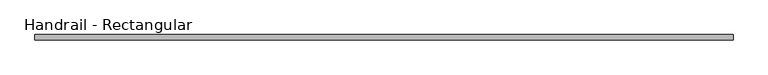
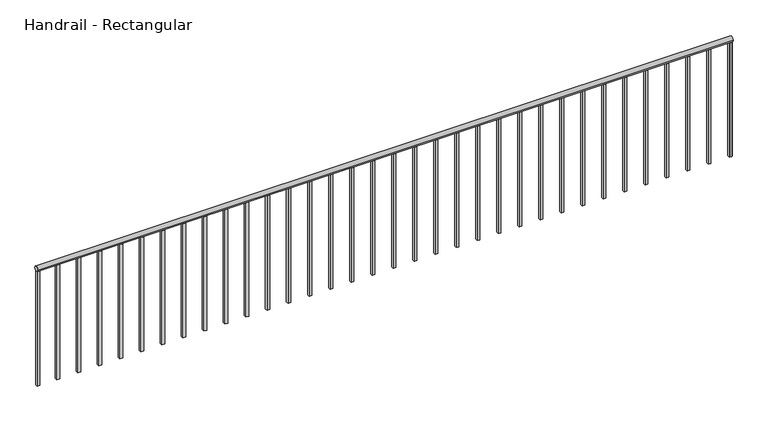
"""IFC4 building model written with IfcOpenShell, lengths in millimetres: railing geometry, Handrail - Rectangular."""

from ifc_helpers import new_model, si_unit, point, frame, frame_2d, origin, place, context, project, spatial, polyline, circle_curve, trimmed, segment, composite_curve, outline, extrude, source, transform, mapped, element, save


def handrail_rectangular_c69f9d7d(model_context):
    return source(origin(), model_context, "Body", "SweptSolid", [
        extrude(outline(composite_curve([segment(trimmed(circle_curve(frame_2d((11944.8316867, 10039.35)), 19.05), [point((11963.8816867, 10039.35))], [point((11925.7816867, 10039.35))], False, "CARTESIAN"), True, "CONTINUOUS"), segment(trimmed(circle_curve(frame_2d((11944.8316867, 10039.35)), 19.05), [point((11925.7816867, 10039.35))], [point((11963.8816867, 10039.35))], False, "CARTESIAN"), True, "CONTINUOUS")], self_intersect=False)), frame((-11164.8589563, 0.0, 0.0), z_axis=(1.0, 0.0, 0.0), x_axis=(0.0, 1.0, 0.0)), (0.0, 0.0, 1.0), 5041.9),
        extrude(outline(polyline([(-6145.1839563, 11935.3066867), (-6145.1839563, 11954.3566867), (-6126.1339563, 11954.3566867), (-6126.1339563, 11935.3066867), (-6145.1839563, 11935.3066867)])), frame((0.0, 0.0, 9144.0), z_axis=(0.0, 0.0, 1.0), x_axis=(1.0, 0.0, 0.0)), (0.0, 0.0, 1.0), 876.3),
        extrude(outline(polyline([(-6297.5839563, 11935.3066867), (-6297.5839563, 11954.3566867), (-6278.5339563, 11954.3566867), (-6278.5339563, 11935.3066867), (-6297.5839563, 11935.3066867)])), frame((0.0, 0.0, 9144.0), z_axis=(0.0, 0.0, 1.0), x_axis=(1.0, 0.0, 0.0)), (0.0, 0.0, 1.0), 876.3),
        extrude(outline(polyline([(-6449.9839563, 11935.3066867), (-6449.9839563, 11954.3566867), (-6430.9339563, 11954.3566867), (-6430.9339563, 11935.3066867), (-6449.9839563, 11935.3066867)])), frame((0.0, 0.0, 9144.0), z_axis=(0.0, 0.0, 1.0), x_axis=(1.0, 0.0, 0.0)), (0.0, 0.0, 1.0), 876.3),
        extrude(outline(polyline([(-6602.3839563, 11935.3066867), (-6602.3839563, 11954.3566867), (-6583.3339563, 11954.3566867), (-6583.3339563, 11935.3066867), (-6602.3839563, 11935.3066867)])), frame((0.0, 0.0, 9144.0), z_axis=(0.0, 0.0, 1.0), x_axis=(1.0, 0.0, 0.0)), (0.0, 0.0, 1.0), 876.3),
        extrude(outline(polyline([(-6754.7839563, 11935.3066867), (-6754.7839563, 11954.3566867), (-6735.7339563, 11954.3566867), (-6735.7339563, 11935.3066867), (-6754.7839563, 11935.3066867)])), frame((0.0, 0.0, 9144.0), z_axis=(0.0, 0.0, 1.0), x_axis=(1.0, 0.0, 0.0)), (0.0, 0.0, 1.0), 876.3),
        extrude(outline(polyline([(-6907.1839563, 11935.3066867), (-6907.1839563, 11954.3566867), (-6888.1339563, 11954.3566867), (-6888.1339563, 11935.3066867), (-6907.1839563, 11935.3066867)])), frame((0.0, 0.0, 9144.0), z_axis=(0.0, 0.0, 1.0), x_axis=(1.0, 0.0, 0.0)), (0.0, 0.0, 1.0), 876.3),
        extrude(outline(polyline([(-7059.5839563, 11935.3066867), (-7059.5839563, 11954.3566867), (-7040.5339563, 11954.3566867), (-7040.5339563, 11935.3066867), (-7059.5839563, 11935.3066867)])), frame((0.0, 0.0, 9144.0), z_axis=(0.0, 0.0, 1.0), x_axis=(1.0, 0.0, 0.0)), (0.0, 0.0, 1.0), 876.3),
        extrude(outline(polyline([(-7211.9839563, 11935.3066867), (-7211.9839563, 11954.3566867), (-7192.9339563, 11954.3566867), (-7192.9339563, 11935.3066867), (-7211.9839563, 11935.3066867)])), frame((0.0, 0.0, 9144.0), z_axis=(0.0, 0.0, 1.0), x_axis=(1.0, 0.0, 0.0)), (0.0, 0.0, 1.0), 876.3),
        extrude(outline(polyline([(-7364.3839563, 11935.3066867), (-7364.3839563, 11954.3566867), (-7345.3339563, 11954.3566867), (-7345.3339563, 11935.3066867), (-7364.3839563, 11935.3066867)])), frame((0.0, 0.0, 9144.0), z_axis=(0.0, 0.0, 1.0), x_axis=(1.0, 0.0, 0.0)), (0.0, 0.0, 1.0), 876.3),
        extrude(outline(polyline([(-7516.7839563, 11935.3066867), (-7516.7839563, 11954.3566867), (-7497.7339563, 11954.3566867), (-7497.7339563, 11935.3066867), (-7516.7839563, 11935.3066867)])), frame((0.0, 0.0, 9144.0), z_axis=(0.0, 0.0, 1.0), x_axis=(1.0, 0.0, 0.0)), (0.0, 0.0, 1.0), 876.3),
        extrude(outline(polyline([(-7669.1839563, 11935.3066867), (-7669.1839563, 11954.3566867), (-7650.1339563, 11954.3566867), (-7650.1339563, 11935.3066867), (-7669.1839563, 11935.3066867)])), frame((0.0, 0.0, 9144.0), z_axis=(0.0, 0.0, 1.0), x_axis=(1.0, 0.0, 0.0)), (0.0, 0.0, 1.0), 876.3),
        extrude(outline(polyline([(-7821.5839563, 11935.3066867), (-7821.5839563, 11954.3566867), (-7802.5339563, 11954.3566867), (-7802.5339563, 11935.3066867), (-7821.5839563, 11935.3066867)])), frame((0.0, 0.0, 9144.0), z_axis=(0.0, 0.0, 1.0), x_axis=(1.0, 0.0, 0.0)), (0.0, 0.0, 1.0), 876.3),
        extrude(outline(polyline([(-7973.9839563, 11935.3066867), (-7973.9839563, 11954.3566867), (-7954.9339563, 11954.3566867), (-7954.9339563, 11935.3066867), (-7973.9839563, 11935.3066867)])), frame((0.0, 0.0, 9144.0), z_axis=(0.0, 0.0, 1.0), x_axis=(1.0, 0.0, 0.0)), (0.0, 0.0, 1.0), 876.3),
        extrude(outline(polyline([(-8126.3839563, 11935.3066867), (-8126.3839563, 11954.3566867), (-8107.3339563, 11954.3566867), (-8107.3339563, 11935.3066867), (-8126.3839563, 11935.3066867)])), frame((0.0, 0.0, 9144.0), z_axis=(0.0, 0.0, 1.0), x_axis=(1.0, 0.0, 0.0)), (0.0, 0.0, 1.0), 876.3),
        extrude(outline(polyline([(-8278.7839563, 11935.3066867), (-8278.7839563, 11954.3566867), (-8259.7339563, 11954.3566867), (-8259.7339563, 11935.3066867), (-8278.7839563, 11935.3066867)])), frame((0.0, 0.0, 9144.0), z_axis=(0.0, 0.0, 1.0), x_axis=(1.0, 0.0, 0.0)), (0.0, 0.0, 1.0), 876.3),
        extrude(outline(polyline([(-8431.1839563, 11935.3066867), (-8431.1839563, 11954.3566867), (-8412.1339563, 11954.3566867), (-8412.1339563, 11935.3066867), (-8431.1839563, 11935.3066867)])), frame((0.0, 0.0, 9144.0), z_axis=(0.0, 0.0, 1.0), x_axis=(1.0, 0.0, 0.0)), (0.0, 0.0, 1.0), 876.3),
        extrude(outline(polyline([(-8583.5839563, 11935.3066867), (-8583.5839563, 11954.3566867), (-8564.5339563, 11954.3566867), (-8564.5339563, 11935.3066867), (-8583.5839563, 11935.3066867)])), frame((0.0, 0.0, 9144.0), z_axis=(0.0, 0.0, 1.0), x_axis=(1.0, 0.0, 0.0)), (0.0, 0.0, 1.0), 876.3),
        extrude(outline(polyline([(-8735.9839563, 11935.3066867), (-8735.9839563, 11954.3566867), (-8716.9339563, 11954.3566867), (-8716.9339563, 11935.3066867), (-8735.9839563, 11935.3066867)])), frame((0.0, 0.0, 9144.0), z_axis=(0.0, 0.0, 1.0), x_axis=(1.0, 0.0, 0.0)), (0.0, 0.0, 1.0), 876.3),
        extrude(outline(polyline([(-8888.3839563, 11935.3066867), (-8888.3839563, 11954.3566867), (-8869.3339563, 11954.3566867), (-8869.3339563, 11935.3066867), (-8888.3839563, 11935.3066867)])), frame((0.0, 0.0, 9144.0), z_axis=(0.0, 0.0, 1.0), x_axis=(1.0, 0.0, 0.0)), (0.0, 0.0, 1.0), 876.3),
        extrude(outline(polyline([(-9040.7839563, 11935.3066867), (-9040.7839563, 11954.3566867), (-9021.7339563, 11954.3566867), (-9021.7339563, 11935.3066867), (-9040.7839563, 11935.3066867)])), frame((0.0, 0.0, 9144.0), z_axis=(0.0, 0.0, 1.0), x_axis=(1.0, 0.0, 0.0)), (0.0, 0.0, 1.0), 876.3),
        extrude(outline(polyline([(-9193.1839563, 11935.3066867), (-9193.1839563, 11954.3566867), (-9174.1339563, 11954.3566867), (-9174.1339563, 11935.3066867), (-9193.1839563, 11935.3066867)])), frame((0.0, 0.0, 9144.0), z_axis=(0.0, 0.0, 1.0), x_axis=(1.0, 0.0, 0.0)), (0.0, 0.0, 1.0), 876.3),
        extrude(outline(polyline([(-9345.5839563, 11935.3066867), (-9345.5839563, 11954.3566867), (-9326.5339563, 11954.3566867), (-9326.5339563, 11935.3066867), (-9345.5839563, 11935.3066867)])), frame((0.0, 0.0, 9144.0), z_axis=(0.0, 0.0, 1.0), x_axis=(1.0, 0.0, 0.0)), (0.0, 0.0, 1.0), 876.3),
        extrude(outline(polyline([(-9497.9839563, 11935.3066867), (-9497.9839563, 11954.3566867), (-9478.9339563, 11954.3566867), (-9478.9339563, 11935.3066867), (-9497.9839563, 11935.3066867)])), frame((0.0, 0.0, 9144.0), z_axis=(0.0, 0.0, 1.0), x_axis=(1.0, 0.0, 0.0)), (0.0, 0.0, 1.0), 876.3),
        extrude(outline(polyline([(-9650.3839563, 11935.3066867), (-9650.3839563, 11954.3566867), (-9631.3339563, 11954.3566867), (-9631.3339563, 11935.3066867), (-9650.3839563, 11935.3066867)])), frame((0.0, 0.0, 9144.0), z_axis=(0.0, 0.0, 1.0), x_axis=(1.0, 0.0, 0.0)), (0.0, 0.0, 1.0), 876.3),
        extrude(outline(polyline([(-9802.7839563, 11935.3066867), (-9802.7839563, 11954.3566867), (-9783.7339563, 11954.3566867), (-9783.7339563, 11935.3066867), (-9802.7839563, 11935.3066867)])), frame((0.0, 0.0, 9144.0), z_axis=(0.0, 0.0, 1.0), x_axis=(1.0, 0.0, 0.0)), (0.0, 0.0, 1.0), 876.3),
        extrude(outline(polyline([(-9955.1839563, 11935.3066867), (-9955.1839563, 11954.3566867), (-9936.1339563, 11954.3566867), (-9936.1339563, 11935.3066867), (-9955.1839563, 11935.3066867)])), frame((0.0, 0.0, 9144.0), z_axis=(0.0, 0.0, 1.0), x_axis=(1.0, 0.0, 0.0)), (0.0, 0.0, 1.0), 876.3),
        extrude(outline(polyline([(-10107.5839563, 11935.3066867), (-10107.5839563, 11954.3566867), (-10088.5339563, 11954.3566867), (-10088.5339563, 11935.3066867), (-10107.5839563, 11935.3066867)])), frame((0.0, 0.0, 9144.0), z_axis=(0.0, 0.0, 1.0), x_axis=(1.0, 0.0, 0.0)), (0.0, 0.0, 1.0), 876.3),
        extrude(outline(polyline([(-10259.9839563, 11935.3066867), (-10259.9839563, 11954.3566867), (-10240.9339563, 11954.3566867), (-10240.9339563, 11935.3066867), (-10259.9839563, 11935.3066867)])), frame((0.0, 0.0, 9144.0), z_axis=(0.0, 0.0, 1.0), x_axis=(1.0, 0.0, 0.0)), (0.0, 0.0, 1.0), 876.3),
        extrude(outline(polyline([(-10412.3839563, 11935.3066867), (-10412.3839563, 11954.3566867), (-10393.3339563, 11954.3566867), (-10393.3339563, 11935.3066867), (-10412.3839563, 11935.3066867)])), frame((0.0, 0.0, 9144.0), z_axis=(0.0, 0.0, 1.0), x_axis=(1.0, 0.0, 0.0)), (0.0, 0.0, 1.0), 876.3),
        extrude(outline(polyline([(-10564.7839563, 11935.3066867), (-10564.7839563, 11954.3566867), (-10545.7339563, 11954.3566867), (-10545.7339563, 11935.3066867), (-10564.7839563, 11935.3066867)])), frame((0.0, 0.0, 9144.0), z_axis=(0.0, 0.0, 1.0), x_axis=(1.0, 0.0, 0.0)), (0.0, 0.0, 1.0), 876.3),
        extrude(outline(polyline([(-10717.1839563, 11935.3066867), (-10717.1839563, 11954.3566867), (-10698.1339563, 11954.3566867), (-10698.1339563, 11935.3066867), (-10717.1839563, 11935.3066867)])), frame((0.0, 0.0, 9144.0), z_axis=(0.0, 0.0, 1.0), x_axis=(1.0, 0.0, 0.0)), (0.0, 0.0, 1.0), 876.3),
        extrude(outline(polyline([(-10869.5839563, 11935.3066867), (-10869.5839563, 11954.3566867), (-10850.5339563, 11954.3566867), (-10850.5339563, 11935.3066867), (-10869.5839563, 11935.3066867)])), frame((0.0, 0.0, 9144.0), z_axis=(0.0, 0.0, 1.0), x_axis=(1.0, 0.0, 0.0)), (0.0, 0.0, 1.0), 876.3),
        extrude(outline(polyline([(-11021.9839563, 11935.3066867), (-11021.9839563, 11954.3566867), (-11002.9339563, 11954.3566867), (-11002.9339563, 11935.3066867), (-11021.9839563, 11935.3066867)])), frame((0.0, 0.0, 9144.0), z_axis=(0.0, 0.0, 1.0), x_axis=(1.0, 0.0, 0.0)), (0.0, 0.0, 1.0), 876.3),
        extrude(outline(polyline([(-6142.0089563, 11935.3066867), (-6142.0089563, 11954.3566867), (-6122.9589563, 11954.3566867), (-6122.9589563, 11935.3066867), (-6142.0089563, 11935.3066867)])), frame((0.0, 0.0, 9144.0), z_axis=(0.0, 0.0, 1.0), x_axis=(1.0, 0.0, 0.0)), (0.0, 0.0, 1.0), 876.3),
        extrude(outline(polyline([(-11164.8589563, 11935.3066867), (-11164.8589563, 11954.3566867), (-11145.8089563, 11954.3566867), (-11145.8089563, 11935.3066867), (-11164.8589563, 11935.3066867)])), frame((0.0, 0.0, 9144.0), z_axis=(0.0, 0.0, 1.0), x_axis=(1.0, 0.0, 0.0)), (0.0, 0.0, 1.0), 876.3),
    ])


if __name__ == "__main__":
    model = new_model("IFC4")
    model_context = context("Model", 3, world=origin())
    ifc_project = project(units=[si_unit("LENGTHUNIT", "METRE", prefix="MILLI")], contexts=[model_context])
    site = spatial("IfcSite", under=ifc_project)
    building = spatial("IfcBuilding", under=site)
    placement = place(None, origin())
    handrail_rectangular_shape = handrail_rectangular_c69f9d7d(model_context)
    element("IfcRailing", 1, ObjectType="Handrail - Rectangular", at=placement, inside=building, context=model_context, shape_type="MappedRepresentation", body=[
        mapped(handrail_rectangular_shape, transform((0.0, 0.0, 0.0), x_axis=(1.0, 0.0, 0.0), y_axis=(0.0, 1.0, 0.0), z_axis=(0.0, 0.0, 1.0))),
    ])
    save(model, "model.ifc")
